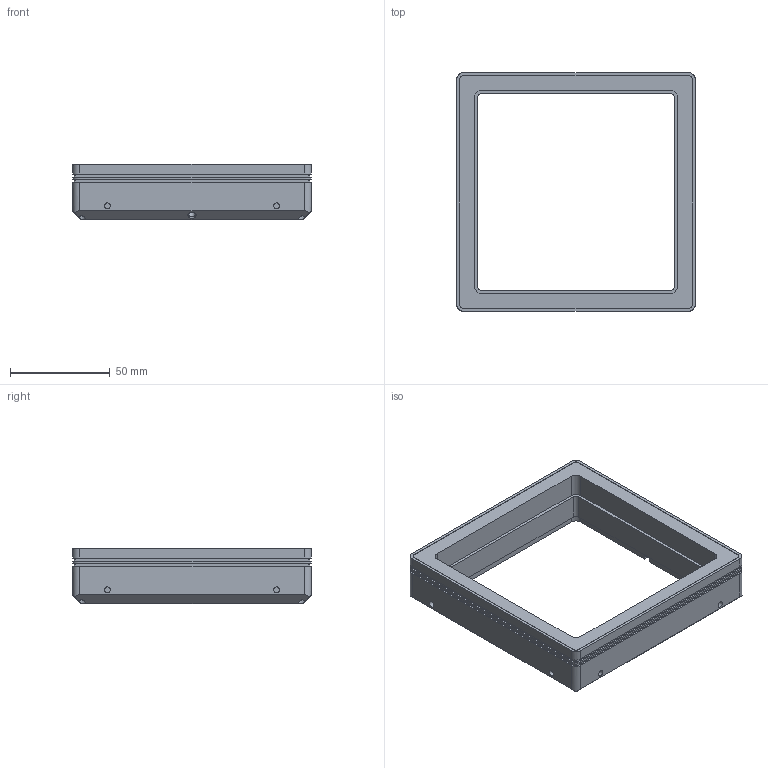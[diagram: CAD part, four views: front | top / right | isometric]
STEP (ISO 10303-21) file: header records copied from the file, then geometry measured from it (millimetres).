
FILE_DESCRIPTION((''),'2;1');
FILE_NAME('D:\上海创波-20181114\2-三维图纸\1-常用光源\WLFL系列\WLFL2-SQ120-.stp','2020-02-05T08:42:19',('Administrator'),(''),'Autodesk Inventor 2010','Autodesk Inventor 2010','');
FILE_SCHEMA(('AUTOMOTIVE_DESIGN { 1 0 10303 214 1 1 1 1 }'));
Length unit declared in the file: millimetre
Products named in the file (1): 零件5
Bounding box: 120 x 120 x 28 mm (x, y, z)
Volume: 103191.2 mm3; surface area: 44180.8 mm2
Topology: 1 solids, 1 shells, 176 faces, 452 edges, 298 vertices
Faces by surface type: plane 82, cylinder 47, bspline 46, cone 1
Full cylindrical faces by diameter (mm): 2 x3, 2.5 x2, 3 x6, 3.2 x1, 4 x2
Entity records: 5705 total; most frequent: CARTESIAN_POINT 1277, DIRECTION 857, ORIENTED_EDGE 846, EDGE_CURVE 423, AXIS2_PLACEMENT_3D 305, VERTEX_POINT 295, VECTOR 247, LINE 247
